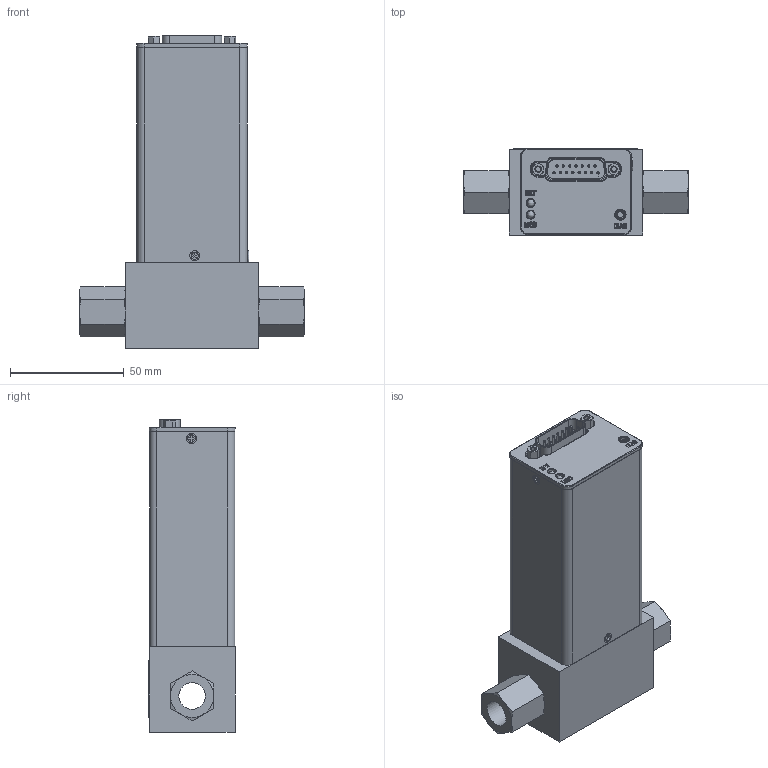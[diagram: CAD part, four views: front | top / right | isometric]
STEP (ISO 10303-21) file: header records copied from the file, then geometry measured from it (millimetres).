
FILE_DESCRIPTION (( 'STEP AP203' ), '1' );
FILE_NAME ('SLA5860-S-1G-0-B-REVB.STEP', '2018-01-26T15:04:33', ( 'mrutkowski' ), ( 'Hewlett-Packard Company' ), 'SwSTEP 2.0', 'SolidWorks 2017', '' );
FILE_SCHEMA (( 'CONFIG_CONTROL_DESIGN' ));
Length unit declared in the file: inch
Products named in the file (1): SLA5860-S-1G-0-B-REVB
Bounding box: 98.77 x 37.86 x 137.39 mm (x, y, z)
Surface area: 41846.5 mm2 (no closed solid volume)
Topology: 0 solids, 40 shells, 488 faces, 1560 edges, 1120 vertices
Faces by surface type: plane 252, cone 91, cylinder 88, bspline 57
Entity records: 19667 total; most frequent: CARTESIAN_POINT 6259, DIRECTION 2685, ORIENTED_EDGE 2539, EDGE_CURVE 1556, VERTEX_POINT 1120, AXIS2_PLACEMENT_3D 897, VECTOR 891, LINE 891
